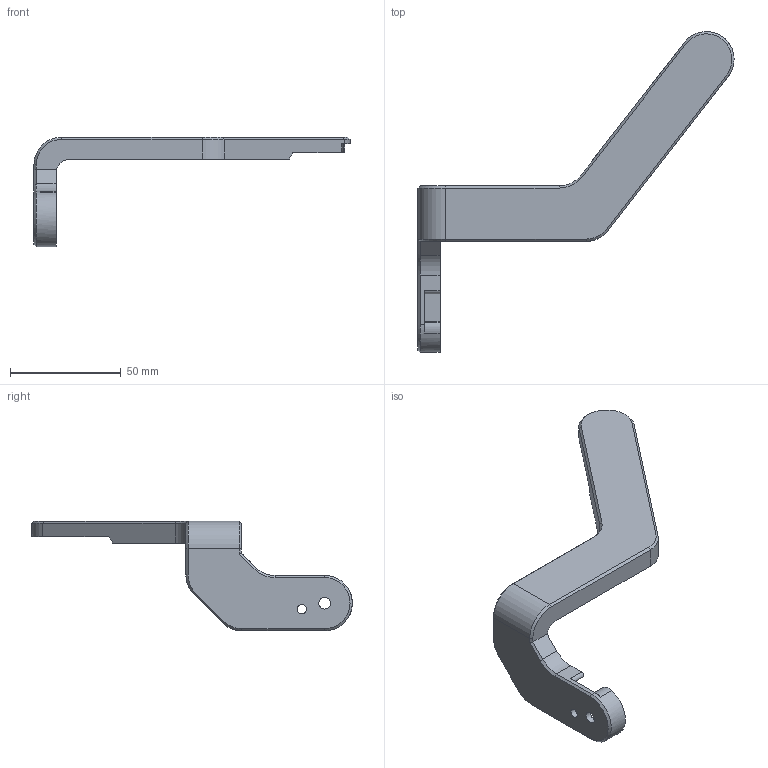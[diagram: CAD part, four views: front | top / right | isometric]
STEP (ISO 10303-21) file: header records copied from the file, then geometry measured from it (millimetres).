
FILE_DESCRIPTION(/* description */ ('STEP AP242','CAx-IF Rec.Pracs.---Representation and Presentation of Product Manufacturing Information (PMI)---4.0---2014-10-13','CAx-IF Rec.Pracs.---3D Tessellated Geometry---0.4---2014-09-14','2;1'),/* implementation_level */ '2;1');
FILE_NAME(/* name */ '687e6a63f344454910d47aea',/* time_stamp */ '2025-07-21T16:27:15Z',/* author */ (''),/* organization */ (''),/* preprocessor_version */ 'ST-DEVELOPER v20',/* originating_system */ 'ONSHAPE BY PTC INC, 1.201',/* authorisation */ ' ');
FILE_SCHEMA (('AP242_MANAGED_MODEL_BASED_3D_ENGINEERING_MIM_LF { 1 0 10303 442 1 1 4 }'));
Length unit declared in the file: metre
Products named in the file (1): Right Arm Cover
Bounding box: 142.5 x 144.49 x 49.45 mm (x, y, z)
Volume: 24099.7 mm3; surface area: 20634.1 mm2
Topology: 1 solids, 1 shells, 116 faces, 302 edges, 195 vertices
Faces by surface type: plane 78, cylinder 27, cone 11
Full cylindrical faces by diameter (mm): 4.1 x1, 5.3 x1
Entity records: 3549 total; most frequent: CARTESIAN_POINT 624, DIRECTION 601, ORIENTED_EDGE 600, EDGE_CURVE 300, LINE 225, VECTOR 225, VERTEX_POINT 195, AXIS2_PLACEMENT_3D 188
